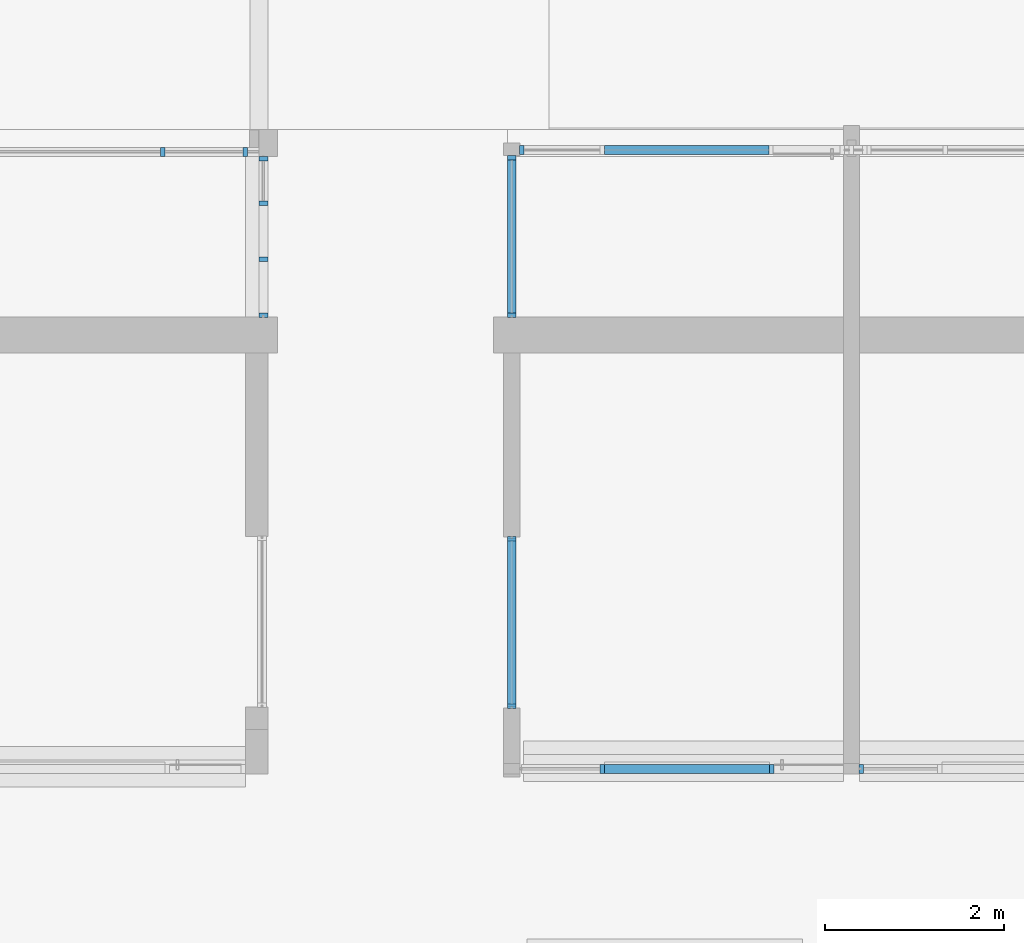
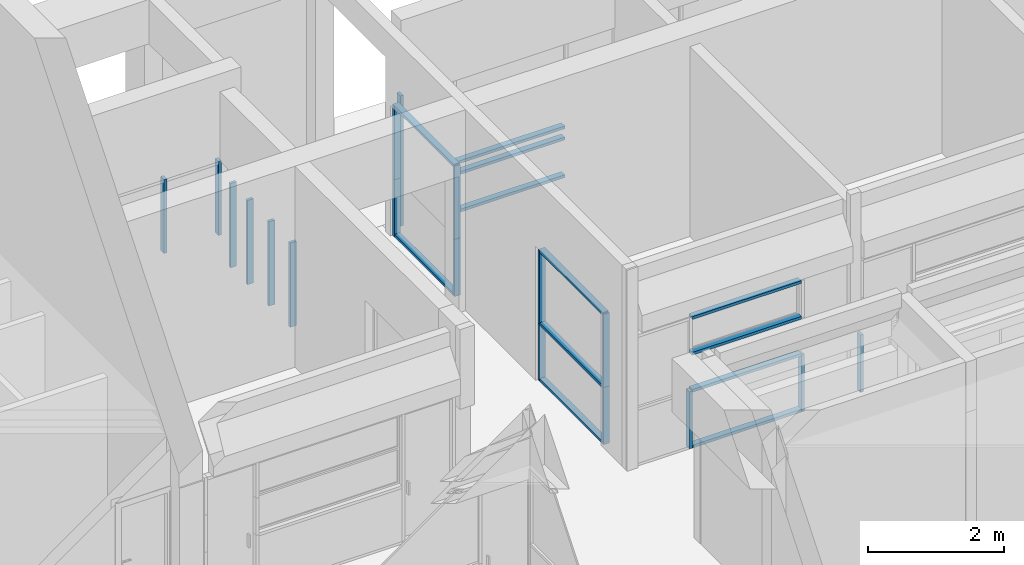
# One storey, part 5 of 117: 30 members, 7 elements without a shape of their own.
"""IFC4 building model written with IfcOpenShell, lengths in metres."""

from ifc_helpers import new_model, entity, si_unit, converted_unit, derived_unit, direction, frame, origin, place, context, subcontext, project, spatial, indexed_curve, outline, extrude, source, transform, mapped, material, type_object, type_shapes, element, aggregate, save


model = new_model("IFC4")

# Units and contexts
model_context = context("Model", 3, precision=1e-05, world=origin(), true_north=direction((6.123031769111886e-17, 1.0)))
body_context = subcontext(model_context, "Body", "Model", "MODEL_VIEW")
ifc_project = project(units=[si_unit("LENGTHUNIT", "METRE"), si_unit("AREAUNIT", "SQUARE_METRE"), si_unit("VOLUMEUNIT", "CUBIC_METRE"), converted_unit("PLANEANGLEUNIT", "DEGREE", entity("IfcRatioMeasure", 0.017453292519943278), si_unit("PLANEANGLEUNIT", "RADIAN"), dimensions=[0, 0, 0, 0, 0, 0, 0]), si_unit("MASSUNIT", "GRAM", prefix="KILO"), derived_unit("MASSDENSITYUNIT", [(si_unit("MASSUNIT", "GRAM", prefix="KILO"), 1), (si_unit("LENGTHUNIT", "METRE"), -3)]), derived_unit("MOMENTOFINERTIAUNIT", [(si_unit("LENGTHUNIT", "METRE"), 4)]), si_unit("TIMEUNIT", "SECOND"), si_unit("FREQUENCYUNIT", "HERTZ"), si_unit("THERMODYNAMICTEMPERATUREUNIT", "DEGREE_CELSIUS"), derived_unit("THERMALTRANSMITTANCEUNIT", [(si_unit("MASSUNIT", "GRAM", prefix="KILO"), 1), (si_unit("THERMODYNAMICTEMPERATUREUNIT", "KELVIN"), -1), (si_unit("TIMEUNIT", "SECOND"), -3)]), derived_unit("VOLUMETRICFLOWRATEUNIT", [(si_unit("LENGTHUNIT", "METRE"), 3), (si_unit("TIMEUNIT", "SECOND"), -1)]), derived_unit("MASSFLOWRATEUNIT", [(si_unit("MASSUNIT", "GRAM", prefix="KILO"), 1), (si_unit("TIMEUNIT", "SECOND"), -1)]), derived_unit("ROTATIONALFREQUENCYUNIT", [(si_unit("TIMEUNIT", "SECOND"), -1)]), si_unit("ELECTRICCURRENTUNIT", "AMPERE"), si_unit("ELECTRICVOLTAGEUNIT", "VOLT"), si_unit("POWERUNIT", "WATT"), si_unit("FORCEUNIT", "NEWTON", prefix="KILO"), si_unit("ILLUMINANCEUNIT", "LUX"), si_unit("LUMINOUSFLUXUNIT", "LUMEN"), si_unit("LUMINOUSINTENSITYUNIT", "CANDELA"), derived_unit("USERDEFINED", [(si_unit("MASSUNIT", "GRAM", prefix="KILO"), -1), (si_unit("LENGTHUNIT", "METRE"), -2), (si_unit("TIMEUNIT", "SECOND"), 3), (si_unit("LUMINOUSFLUXUNIT", "LUMEN"), 1)]), derived_unit("SOUNDPOWERUNIT", [(si_unit("MASSUNIT", "GRAM", prefix="KILO"), 1), (si_unit("LENGTHUNIT", "METRE"), 2), (si_unit("TIMEUNIT", "SECOND"), -3)]), derived_unit("SOUNDPRESSUREUNIT", [(si_unit("MASSUNIT", "GRAM", prefix="KILO"), 1), (si_unit("LENGTHUNIT", "METRE"), -1), (si_unit("TIMEUNIT", "SECOND"), -2)]), derived_unit("LINEARVELOCITYUNIT", [(si_unit("LENGTHUNIT", "METRE"), 1), (si_unit("TIMEUNIT", "SECOND"), -1)]), si_unit("PRESSUREUNIT", "PASCAL"), derived_unit("USERDEFINED", [(si_unit("LENGTHUNIT", "METRE"), -2), (si_unit("MASSUNIT", "GRAM", prefix="KILO"), 1), (si_unit("TIMEUNIT", "SECOND"), -2)]), derived_unit("LINEARFORCEUNIT", [(si_unit("MASSUNIT", "GRAM", prefix="KILO"), 1), (si_unit("LENGTHUNIT", "METRE"), 1), (si_unit("TIMEUNIT", "SECOND"), -2), (si_unit("LENGTHUNIT", "METRE"), -1)]), derived_unit("PLANARFORCEUNIT", [(si_unit("MASSUNIT", "GRAM", prefix="KILO"), 1), (si_unit("LENGTHUNIT", "METRE"), 1), (si_unit("TIMEUNIT", "SECOND"), -2), (si_unit("LENGTHUNIT", "METRE"), -2)])], contexts=[model_context])

# Site, building, storey
site_placement = place(None, origin())
site = spatial("IfcSite", under=ifc_project, at=site_placement, Name="Superficie", CompositionType="ELEMENT")
building_placement = place(site_placement, origin())
building = spatial("IfcBuilding", under=site, at=building_placement, CompositionType="ELEMENT")
storey_placement = place(building_placement, origin())
storey = spatial("IfcBuildingStorey", under=building, at=storey_placement, Name="Nivel 0", CompositionType="ELEMENT", Elevation=0.0)

# Curtain wall, members
curtain_wall_type = type_object("IfcCurtainWallType", Name="Muro cortina:Muro cortina - simple", PredefinedType="NOTDEFINED")
curtain_wall_1_placement = place(storey_placement, origin())
curtain_wall_1 = element("IfcCurtainWall", 1, at=curtain_wall_1_placement, inside=storey, type_object=curtain_wall_type, Name="Muro cortina:Muro cortina - simple", ObjectType="Muro cortina:Muro cortina - simple", PredefinedType="NOTDEFINED")
ifc_material = material(Name="<Unnamed>")
member_type_1 = type_object("IfcMemberType", Name="Montante rectangular:Montante rectangular - 5 x 10 cm", PredefinedType="MULLION", material=ifc_material)
shared_shape_1 = source(origin(), body_context, "Body", "SweptSolid", [
    extrude(outline(indexed_curve([(-0.05, -0.025), (0.05, -0.025), (0.05, 0.025), (-0.05, 0.025), (-0.05, -0.025)], self_intersect=False)), frame((0.0, 0.0, -1.0250000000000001), z_axis=(0.0, 0.0, 1.0), x_axis=(0.0, -1.0, 0.0)), (0.0, 0.0, 1.0), 1.0250000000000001),
])
type_shapes(member_type_1, [shared_shape_1])
member_1_placement = place(curtain_wall_1_placement, frame((-14.403200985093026, 5.715829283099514, -0.005000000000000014), z_axis=(0.0, 0.0, -1.0), x_axis=(1.0, 0.0, 0.0)))
member_1 = element("IfcMember", 2, at=member_1_placement, type_object=member_type_1, material=ifc_material, Name="Montante rectangular:Montante rectangular - 5 x 10 cm", ObjectType="Montante rectangular:Montante rectangular - 5 x 10 cm", PredefinedType="MULLION", context=body_context, shape_type="MappedRepresentation", body=[
    mapped(shared_shape_1, transform((0.0, 0.0, 0.0), scale=1.0)),
])
member_2_placement = place(curtain_wall_1_placement, frame((-12.50320098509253, 5.7158292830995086, -0.005000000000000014), z_axis=(0.0, 0.0, -1.0), x_axis=(1.0, 0.0, 0.0)))
member_2 = element("IfcMember", 3, at=member_2_placement, type_object=member_type_1, material=ifc_material, Name="Montante rectangular:Montante rectangular - 5 x 10 cm", ObjectType="Montante rectangular:Montante rectangular - 5 x 10 cm", PredefinedType="MULLION", context=body_context, shape_type="MappedRepresentation", body=[
    mapped(shared_shape_1, transform((0.0, 0.0, 0.0), scale=1.0)),
])

curtain_wall_2_placement = place(storey_placement, origin())
curtain_wall_2 = element("IfcCurtainWall", 4, at=curtain_wall_2_placement, inside=storey, type_object=curtain_wall_type, Name="Muro cortina:Muro cortina - simple", ObjectType="Muro cortina:Muro cortina - simple", PredefinedType="NOTDEFINED")
member_3_placement = place(curtain_wall_2_placement, frame((-15.41320098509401, 6.415829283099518, -0.004999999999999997), z_axis=(0.0, 0.0, -1.0), x_axis=(0.0, -1.0, 0.0)))
member_3 = element("IfcMember", 5, at=member_3_placement, type_object=member_type_1, material=ifc_material, Name="Montante rectangular:Montante rectangular - 5 x 10 cm", ObjectType="Montante rectangular:Montante rectangular - 5 x 10 cm", PredefinedType="MULLION", context=body_context, shape_type="MappedRepresentation", body=[
    mapped(shared_shape_1, transform((0.0, 0.0, 0.0), scale=1.0)),
])
member_4_placement = place(curtain_wall_2_placement, frame((-15.413200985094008, 8.293063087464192, -0.004999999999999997), z_axis=(0.0, 0.0, -1.0), x_axis=(0.0, -1.0, 0.0)))
member_4 = element("IfcMember", 6, at=member_4_placement, type_object=member_type_1, material=ifc_material, Name="Montante rectangular:Montante rectangular - 5 x 10 cm", ObjectType="Montante rectangular:Montante rectangular - 5 x 10 cm", PredefinedType="MULLION", context=body_context, shape_type="MappedRepresentation", body=[
    mapped(shared_shape_1, transform((0.0, 0.0, 0.0), scale=1.0)),
])

# Curtain wall, member
curtain_wall_3_placement = place(storey_placement, origin())
curtain_wall_3 = element("IfcCurtainWall", 7, at=curtain_wall_3_placement, inside=storey, type_object=curtain_wall_type, Name="Muro cortina:Muro cortina - simple", ObjectType="Muro cortina:Muro cortina - simple", PredefinedType="NOTDEFINED")
member_5_placement = place(curtain_wall_3_placement, frame((-11.503200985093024, 5.715829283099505, -0.005000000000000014), z_axis=(0.0, 0.0, -1.0), x_axis=(1.0, 0.0, 0.0)))
member_5 = element("IfcMember", 8, at=member_5_placement, type_object=member_type_1, material=ifc_material, Name="Montante rectangular:Montante rectangular - 5 x 10 cm", ObjectType="Montante rectangular:Montante rectangular - 5 x 10 cm", PredefinedType="MULLION", context=body_context, shape_type="MappedRepresentation", body=[
    mapped(shared_shape_1, transform((0.0, 0.0, 0.0), scale=1.0)),
])
aggregate(curtain_wall_3, [member_5])

# Member
member_type_2 = type_object("IfcMemberType", Name="Montante rectangular:Montante rectangular - 5 x 10 cm", PredefinedType="MULLION", material=ifc_material)
shared_shape_2 = source(origin(), body_context, "Body", "SweptSolid", [
    extrude(outline(indexed_curve([(-0.05, -0.025), (0.05, -0.025), (0.05, 0.025), (-0.05, 0.025), (-0.05, -0.025)], self_intersect=False)), frame((0.0, 0.0, -1.3099999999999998), z_axis=(0.0, 0.0, 1.0), x_axis=(0.0, -1.0, 0.0)), (0.0, 0.0, 1.0), 1.3099999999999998),
])
type_shapes(member_type_2, [shared_shape_2])
member_6_placement = place(curtain_wall_2_placement, frame((-15.41320098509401, 6.415829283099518, 1.0200000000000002), z_axis=(0.0, 0.0, -1.0), x_axis=(0.0, -1.0, 0.0)))
member_6 = element("IfcMember", 9, at=member_6_placement, type_object=member_type_2, material=ifc_material, Name="Montante rectangular:Montante rectangular - 5 x 10 cm", ObjectType="Montante rectangular:Montante rectangular - 5 x 10 cm", PredefinedType="MULLION", context=body_context, shape_type="MappedRepresentation", body=[
    mapped(shared_shape_2, transform((0.0, 0.0, 0.0), scale=1.0)),
])

member_7_placement = place(curtain_wall_2_placement, frame((-15.413200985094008, 8.293063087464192, 1.0200000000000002), z_axis=(0.0, 0.0, -1.0), x_axis=(0.0, -1.0, 0.0)))
member_7 = element("IfcMember", 10, at=member_7_placement, type_object=member_type_2, material=ifc_material, Name="Montante rectangular:Montante rectangular - 5 x 10 cm", ObjectType="Montante rectangular:Montante rectangular - 5 x 10 cm", PredefinedType="MULLION", context=body_context, shape_type="MappedRepresentation", body=[
    mapped(shared_shape_2, transform((0.0, 0.0, 0.0), scale=1.0)),
])

member_type_3 = type_object("IfcMemberType", Name="Montante rectangular:Montante rectangular - 5 x 10 cm", PredefinedType="MULLION", material=ifc_material)
shared_shape_3 = source(origin(), body_context, "Body", "SweptSolid", [
    extrude(outline(indexed_curve([(-0.05, -0.025), (0.05, -0.025), (0.05, 0.025), (-0.05, 0.025), (-0.05, -0.025)], self_intersect=False)), frame((0.0, 0.0, -1.850000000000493), z_axis=(0.0, 0.0, 1.0), x_axis=(0.0, -1.0, 0.0)), (0.0, 0.0, 1.0), 1.850000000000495),
])
type_shapes(member_type_3, [shared_shape_3])
member_8_placement = place(curtain_wall_1_placement, frame((-12.52820098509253, 5.7158292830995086, 0.019999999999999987), z_axis=(1.0, 0.0, 0.0), x_axis=(0.0, 0.0, 1.0)))
member_8 = element("IfcMember", 11, at=member_8_placement, type_object=member_type_3, material=ifc_material, Name="Montante rectangular:Montante rectangular - 5 x 10 cm", ObjectType="Montante rectangular:Montante rectangular - 5 x 10 cm", PredefinedType="MULLION", context=body_context, shape_type="MappedRepresentation", body=[
    mapped(shared_shape_3, transform((0.0, 0.0, 0.0), scale=1.0)),
])

member_9_placement = place(curtain_wall_1_placement, frame((-12.52820098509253, 5.7158292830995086, 1.0200000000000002), z_axis=(1.0, 0.0, 0.0), x_axis=(0.0, 0.0, 1.0)))
member_9 = element("IfcMember", 12, at=member_9_placement, type_object=member_type_3, material=ifc_material, Name="Montante rectangular:Montante rectangular - 5 x 10 cm", ObjectType="Montante rectangular:Montante rectangular - 5 x 10 cm", PredefinedType="MULLION", context=body_context, shape_type="MappedRepresentation", body=[
    mapped(shared_shape_3, transform((0.0, 0.0, 0.0), scale=1.0)),
])

member_10_placement = place(curtain_wall_1_placement, frame((-12.52820098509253, 5.7158292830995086, 1.685), z_axis=(1.0, 0.0, 0.0), x_axis=(0.0, 0.0, 1.0)))
member_10 = element("IfcMember", 13, at=member_10_placement, type_object=member_type_3, material=ifc_material, Name="Montante rectangular:Montante rectangular - 5 x 10 cm", ObjectType="Montante rectangular:Montante rectangular - 5 x 10 cm", PredefinedType="MULLION", context=body_context, shape_type="MappedRepresentation", body=[
    mapped(shared_shape_3, transform((0.0, 0.0, 0.0), scale=1.0)),
])

member_type_4 = type_object("IfcMemberType", Name="Montante rectangular:Montante rectangular - 5 x 10 cm", PredefinedType="MULLION", material=ifc_material)
shared_shape_4 = source(origin(), body_context, "Body", "SweptSolid", [
    extrude(outline(indexed_curve([(-0.05, -0.025), (0.05, -0.025), (0.05, 0.025), (-0.05, 0.025), (-0.05, -0.025)], self_intersect=False)), frame((-0.025, 0.0, -1.850000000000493), z_axis=(0.0, 0.0, 1.0), x_axis=(0.0, -1.0, 0.0)), (0.0, 0.0, 1.0), 1.850000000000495),
])
type_shapes(member_type_4, [shared_shape_4])
member_11_placement = place(curtain_wall_1_placement, frame((-12.52820098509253, 5.7158292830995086, 2.35), z_axis=(1.0, 0.0, 0.0), x_axis=(0.0, 0.0, 1.0)))
member_11 = element("IfcMember", 14, at=member_11_placement, type_object=member_type_4, material=ifc_material, Name="Montante rectangular:Montante rectangular - 5 x 10 cm", ObjectType="Montante rectangular:Montante rectangular - 5 x 10 cm", PredefinedType="MULLION", context=body_context, shape_type="MappedRepresentation", body=[
    mapped(shared_shape_4, transform((0.0, 0.0, 0.0), scale=1.0)),
])

aggregate(curtain_wall_1, [member_8, member_11, member_1, member_9, member_10, member_2])

member_type_5 = type_object("IfcMemberType", Name="Montante rectangular:Montante rectangular - 5 x 10 cm", PredefinedType="MULLION", material=ifc_material)
shared_shape_5 = source(origin(), body_context, "Body", "SweptSolid", [
    extrude(outline(indexed_curve([(-0.05, -0.025), (0.05, -0.025), (0.05, 0.025), (-0.05, 0.025), (-0.05, -0.025)], self_intersect=False)), frame((-0.025, 0.0, -1.877233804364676), z_axis=(0.0, 0.0, 1.0), x_axis=(0.0, -1.0, 0.0)), (0.0, 0.0, 1.0), 1.8772338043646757),
])
type_shapes(member_type_5, [shared_shape_5])
member_12_placement = place(curtain_wall_2_placement, frame((-15.41320098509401, 6.415829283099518, 2.3499999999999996), z_axis=(0.0, -1.0, 0.0), x_axis=(0.0, 0.0, 1.0)))
member_12 = element("IfcMember", 15, at=member_12_placement, type_object=member_type_5, material=ifc_material, Name="Montante rectangular:Montante rectangular - 5 x 10 cm", ObjectType="Montante rectangular:Montante rectangular - 5 x 10 cm", PredefinedType="MULLION", context=body_context, shape_type="MappedRepresentation", body=[
    mapped(shared_shape_5, transform((0.0, 0.0, 0.0), scale=1.0)),
])

member_type_6 = type_object("IfcMemberType", Name="Montante rectangular:Montante rectangular - 5 x 10 cm", PredefinedType="MULLION", material=ifc_material)
shared_shape_6 = source(origin(), body_context, "Body", "SweptSolid", [
    extrude(outline(indexed_curve([(-0.05, -0.025), (0.05, -0.025), (0.05, 0.025), (-0.05, 0.025), (-0.05, -0.025)], self_intersect=False)), frame((0.0, 0.0, -1.827233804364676), z_axis=(0.0, 0.0, 1.0), x_axis=(0.0, -1.0, 0.0)), (0.0, 0.0, 1.0), 1.8272338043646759),
])
type_shapes(member_type_6, [shared_shape_6])
member_13_placement = place(curtain_wall_2_placement, frame((-15.41320098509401, 6.440829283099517, 0.020000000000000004), z_axis=(0.0, -1.0, 0.0), x_axis=(0.0, 0.0, 1.0)))
member_13 = element("IfcMember", 16, at=member_13_placement, type_object=member_type_6, material=ifc_material, Name="Montante rectangular:Montante rectangular - 5 x 10 cm", ObjectType="Montante rectangular:Montante rectangular - 5 x 10 cm", PredefinedType="MULLION", context=body_context, shape_type="MappedRepresentation", body=[
    mapped(shared_shape_6, transform((0.0, 0.0, 0.0), scale=1.0)),
])

member_14_placement = place(curtain_wall_2_placement, frame((-15.41320098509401, 6.440829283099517, 1.0200000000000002), z_axis=(0.0, -1.0, 0.0), x_axis=(0.0, 0.0, 1.0)))
member_14 = element("IfcMember", 17, at=member_14_placement, type_object=member_type_6, material=ifc_material, Name="Montante rectangular:Montante rectangular - 5 x 10 cm", ObjectType="Montante rectangular:Montante rectangular - 5 x 10 cm", PredefinedType="MULLION", context=body_context, shape_type="MappedRepresentation", body=[
    mapped(shared_shape_6, transform((0.0, 0.0, 0.0), scale=1.0)),
])

aggregate(curtain_wall_2, [member_12, member_3, member_13, member_4, member_6, member_7, member_14])

# Curtain wall, members
curtain_wall_4_placement = place(storey_placement, origin())
curtain_wall_4 = element("IfcCurtainWall", 18, at=curtain_wall_4_placement, inside=storey, type_object=curtain_wall_type, Name="Muro cortina:Muro cortina - simple", ObjectType="Muro cortina:Muro cortina - simple", PredefinedType="NOTDEFINED")
member_type_7 = type_object("IfcMemberType", Name="Montante rectangular:Montante rectangular - 5 x 10 cm", PredefinedType="MULLION", material=ifc_material)
shared_shape_7 = source(origin(), body_context, "Body", "SweptSolid", [
    extrude(outline(indexed_curve([(-0.05, -0.025), (0.05, -0.025), (0.05, 0.025), (-0.05, 0.025), (-0.05, -0.025)], self_intersect=False)), frame((0.0, 0.0, -1.0250000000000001), z_axis=(0.0, 0.0, 1.0), x_axis=(0.0, -1.0, 0.0)), (0.0, 0.0, 1.0), 1.0250000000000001),
])
type_shapes(member_type_7, [shared_shape_7])
member_15_placement = place(curtain_wall_4_placement, frame((-15.413200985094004, 10.790829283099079, -0.004999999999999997), z_axis=(0.0, 0.0, -1.0), x_axis=(0.0, -1.0, 0.0)))
member_15 = element("IfcMember", 19, at=member_15_placement, type_object=member_type_7, material=ifc_material, Name="Montante rectangular:Montante rectangular - 5 x 10 cm", ObjectType="Montante rectangular:Montante rectangular - 5 x 10 cm", PredefinedType="MULLION", context=body_context, shape_type="MappedRepresentation", body=[
    mapped(shared_shape_7, transform((0.0, 0.0, 0.0), scale=1.0)),
])
member_type_8 = type_object("IfcMemberType", Name="Montante rectangular:Montante rectangular - 5 x 10 cm", PredefinedType="MULLION", material=ifc_material)
shared_shape_8 = source(origin(), body_context, "Body", "SweptSolid", [
    extrude(outline(indexed_curve([(-0.05, -0.025), (0.05, -0.025), (0.05, 0.025), (-0.05, 0.025), (-0.05, -0.025)], self_intersect=False)), frame((-0.025, 0.0, -1.0250000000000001), z_axis=(0.0, 0.0, 1.0), x_axis=(0.0, -1.0, 0.0)), (0.0, 0.0, 1.0), 1.0250000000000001),
])
type_shapes(member_type_8, [shared_shape_8])
member_16_placement = place(curtain_wall_4_placement, frame((-15.413200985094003, 12.578448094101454, 1.0200000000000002), z_axis=(0.0, 0.0, 1.0), x_axis=(0.0, 1.0, 0.0)))
member_16 = element("IfcMember", 20, at=member_16_placement, type_object=member_type_8, material=ifc_material, Name="Montante rectangular:Montante rectangular - 5 x 10 cm", ObjectType="Montante rectangular:Montante rectangular - 5 x 10 cm", PredefinedType="MULLION", context=body_context, shape_type="MappedRepresentation", body=[
    mapped(shared_shape_8, transform((0.0, 0.0, 0.0), scale=1.0)),
])
member_type_9 = type_object("IfcMemberType", Name="Montante rectangular:Montante rectangular - 5 x 10 cm", PredefinedType="MULLION", material=ifc_material)
shared_shape_9 = source(origin(), body_context, "Body", "SweptSolid", [
    extrude(outline(indexed_curve([(-0.05, -0.025), (0.05, -0.025), (0.05, 0.025), (-0.05, 0.025), (-0.05, -0.025)], self_intersect=False)), frame((0.0, 0.0, -1.3099999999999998), z_axis=(0.0, 0.0, 1.0), x_axis=(0.0, -1.0, 0.0)), (0.0, 0.0, 1.0), 1.3099999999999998),
])
type_shapes(member_type_9, [shared_shape_9])
member_17_placement = place(curtain_wall_4_placement, frame((-15.413200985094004, 10.790829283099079, 1.0200000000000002), z_axis=(0.0, 0.0, -1.0), x_axis=(0.0, -1.0, 0.0)))
member_17 = element("IfcMember", 21, at=member_17_placement, type_object=member_type_9, material=ifc_material, Name="Montante rectangular:Montante rectangular - 5 x 10 cm", ObjectType="Montante rectangular:Montante rectangular - 5 x 10 cm", PredefinedType="MULLION", context=body_context, shape_type="MappedRepresentation", body=[
    mapped(shared_shape_9, transform((0.0, 0.0, 0.0), scale=1.0)),
])

curtain_wall_5_placement = place(storey_placement, origin())
curtain_wall_5 = element("IfcCurtainWall", 22, at=curtain_wall_5_placement, inside=storey, type_object=curtain_wall_type, Name="Muro cortina:Muro cortina - simple", ObjectType="Muro cortina:Muro cortina - simple", PredefinedType="NOTDEFINED")
member_type_10 = type_object("IfcMemberType", Name="Montante rectangular:Montante rectangular - 5 x 10 cm", PredefinedType="MULLION", material=ifc_material)
shared_shape_10 = source(origin(), body_context, "Body", "SweptSolid", [
    extrude(outline(indexed_curve([(-0.05, -0.025), (0.05, -0.025), (0.05, 0.025), (-0.05, 0.025), (-0.05, -0.025)], self_intersect=False)), frame((0.0, 0.0, -1.5099999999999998), z_axis=(0.0, 0.0, 1.0), x_axis=(0.0, -1.0, 0.0)), (0.0, 0.0, 1.0), 1.5099999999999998),
])
type_shapes(member_type_10, [shared_shape_10])
member_18_placement = place(curtain_wall_5_placement, frame((-18.193200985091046, 10.790829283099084, 0.4200000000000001), z_axis=(0.0, 0.0, -1.0), x_axis=(0.0, 1.0, 0.0)))
member_18 = element("IfcMember", 23, at=member_18_placement, type_object=member_type_10, material=ifc_material, Name="Montante rectangular:Montante rectangular - 5 x 10 cm", ObjectType="Montante rectangular:Montante rectangular - 5 x 10 cm", PredefinedType="MULLION", context=body_context, shape_type="MappedRepresentation", body=[
    mapped(shared_shape_10, transform((0.0, 0.0, 0.0), scale=1.0)),
])
member_type_11 = type_object("IfcMemberType", Name="Montante rectangular:Montante rectangular - 5 x 10 cm", PredefinedType="MULLION", material=ifc_material)
shared_shape_11 = source(origin(), body_context, "Body", "SweptSolid", [
    extrude(outline(indexed_curve([(-0.05, -0.025), (0.05, -0.025), (0.05, 0.025), (-0.05, 0.025), (-0.05, -0.025)], self_intersect=False)), frame((-0.025, 0.0, -1.5099999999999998), z_axis=(0.0, 0.0, 1.0), x_axis=(0.0, -1.0, 0.0)), (0.0, 0.0, 1.0), 1.5099999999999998),
])
type_shapes(member_type_11, [shared_shape_11])
member_19_placement = place(curtain_wall_5_placement, frame((-18.193200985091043, 12.570829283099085, 0.4200000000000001), z_axis=(0.0, 0.0, -1.0), x_axis=(0.0, 1.0, 0.0)))
member_19 = element("IfcMember", 24, at=member_19_placement, type_object=member_type_11, material=ifc_material, Name="Montante rectangular:Montante rectangular - 5 x 10 cm", ObjectType="Montante rectangular:Montante rectangular - 5 x 10 cm", PredefinedType="MULLION", context=body_context, shape_type="MappedRepresentation", body=[
    mapped(shared_shape_11, transform((0.0, 0.0, 0.0), scale=1.0)),
])
member_type_12 = type_object("IfcMemberType", Name="Montante rectangular:Montante rectangular - 5 x 10 cm", PredefinedType="MULLION", material=ifc_material)
shared_shape_12 = source(origin(), body_context, "Body", "SweptSolid", [
    extrude(outline(indexed_curve([(-0.05, -0.025), (0.05, -0.025), (0.05, 0.025), (-0.05, 0.025), (-0.05, -0.025)], self_intersect=False)), frame((0.0, 0.0, -1.5099999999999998), z_axis=(0.0, 0.0, 1.0), x_axis=(0.0, -1.0, 0.0)), (0.0, 0.0, 1.0), 1.5099999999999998),
])
type_shapes(member_type_12, [shared_shape_12])
member_20_placement = place(curtain_wall_5_placement, frame((-18.193200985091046, 11.419039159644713, 0.4200000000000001), z_axis=(0.0, 0.0, -1.0), x_axis=(0.0, 1.0, 0.0)))
member_20 = element("IfcMember", 25, at=member_20_placement, type_object=member_type_12, material=ifc_material, Name="Montante rectangular:Montante rectangular - 5 x 10 cm", ObjectType="Montante rectangular:Montante rectangular - 5 x 10 cm", PredefinedType="MULLION", context=body_context, shape_type="MappedRepresentation", body=[
    mapped(shared_shape_12, transform((0.0, 0.0, 0.0), scale=1.0)),
])
member_21_placement = place(curtain_wall_5_placement, frame((-18.193200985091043, 12.047249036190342, 0.4200000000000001), z_axis=(0.0, 0.0, -1.0), x_axis=(0.0, 1.0, 0.0)))
member_21 = element("IfcMember", 26, at=member_21_placement, type_object=member_type_12, material=ifc_material, Name="Montante rectangular:Montante rectangular - 5 x 10 cm", ObjectType="Montante rectangular:Montante rectangular - 5 x 10 cm", PredefinedType="MULLION", context=body_context, shape_type="MappedRepresentation", body=[
    mapped(shared_shape_12, transform((0.0, 0.0, 0.0), scale=1.0)),
])
aggregate(curtain_wall_5, [member_18, member_19, member_20, member_21])

# Member
member_type_13 = type_object("IfcMemberType", Name="Montante rectangular:Montante rectangular - 5 x 10 cm", PredefinedType="MULLION", material=ifc_material)
shared_shape_13 = source(origin(), body_context, "Body", "SweptSolid", [
    extrude(outline(indexed_curve([(-0.05, -0.025), (0.05, -0.025), (0.05, 0.025), (-0.05, 0.025), (-0.05, -0.025)], self_intersect=False)), frame((-0.025, 0.0, -1.7876188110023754), z_axis=(0.0, 0.0, 1.0), x_axis=(0.0, -1.0, 0.0)), (0.0, 0.0, 1.0), 1.7876188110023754),
])
type_shapes(member_type_13, [shared_shape_13])
member_22_placement = place(curtain_wall_4_placement, frame((-15.413200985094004, 10.790829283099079, 2.35), z_axis=(0.0, -1.0, 0.0), x_axis=(0.0, 0.0, 1.0)))
member_22 = element("IfcMember", 27, at=member_22_placement, type_object=member_type_13, material=ifc_material, Name="Montante rectangular:Montante rectangular - 5 x 10 cm", ObjectType="Montante rectangular:Montante rectangular - 5 x 10 cm", PredefinedType="MULLION", context=body_context, shape_type="MappedRepresentation", body=[
    mapped(shared_shape_13, transform((0.0, 0.0, 0.0), scale=1.0)),
])

member_type_14 = type_object("IfcMemberType", Name="Montante rectangular:Montante rectangular - 5 x 10 cm", PredefinedType="MULLION", material=ifc_material)
shared_shape_14 = source(origin(), body_context, "Body", "SweptSolid", [
    extrude(outline(indexed_curve([(-0.05, -0.025), (0.05, -0.025), (0.05, 0.025), (-0.05, 0.025), (-0.05, -0.025)], self_intersect=False)), frame((-0.025, 0.0, -1.31), z_axis=(0.0, 0.0, 1.0), x_axis=(0.0, -1.0, 0.0)), (0.0, 0.0, 1.0), 1.31),
])
type_shapes(member_type_14, [shared_shape_14])
member_23_placement = place(curtain_wall_4_placement, frame((-15.413200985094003, 12.578448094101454, 2.33), z_axis=(0.0, 0.0, 1.0), x_axis=(0.0, 1.0, 0.0)))
member_23 = element("IfcMember", 28, at=member_23_placement, type_object=member_type_14, material=ifc_material, Name="Montante rectangular:Montante rectangular - 5 x 10 cm", ObjectType="Montante rectangular:Montante rectangular - 5 x 10 cm", PredefinedType="MULLION", context=body_context, shape_type="MappedRepresentation", body=[
    mapped(shared_shape_14, transform((0.0, 0.0, 0.0), scale=1.0)),
])

member_type_15 = type_object("IfcMemberType", Name="Montante rectangular:Montante rectangular - 5 x 10 cm", PredefinedType="MULLION", material=ifc_material)
shared_shape_15 = source(origin(), body_context, "Body", "SweptSolid", [
    extrude(outline(indexed_curve([(-0.05, -0.025), (0.05, -0.025), (0.05, 0.025), (-0.05, 0.025), (-0.05, -0.025)], self_intersect=False)), frame((0.0, 0.0, -1.712618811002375), z_axis=(0.0, 0.0, 1.0), x_axis=(0.0, -1.0, 0.0)), (0.0, 0.0, 1.0), 1.7126188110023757),
])
type_shapes(member_type_15, [shared_shape_15])
member_24_placement = place(curtain_wall_4_placement, frame((-15.413200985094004, 10.81582928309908, 0.020000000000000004), z_axis=(0.0, -1.0, 0.0), x_axis=(0.0, 0.0, 1.0)))
member_24 = element("IfcMember", 29, at=member_24_placement, type_object=member_type_15, material=ifc_material, Name="Montante rectangular:Montante rectangular - 5 x 10 cm", ObjectType="Montante rectangular:Montante rectangular - 5 x 10 cm", PredefinedType="MULLION", context=body_context, shape_type="MappedRepresentation", body=[
    mapped(shared_shape_15, transform((0.0, 0.0, 0.0), scale=1.0)),
])

aggregate(curtain_wall_4, [member_22, member_15, member_17, member_16, member_23, member_24])

# Curtain wall, members
curtain_wall_6_placement = place(storey_placement, origin())
curtain_wall_6 = element("IfcCurtainWall", 30, at=curtain_wall_6_placement, inside=storey, type_object=curtain_wall_type, Name="Muro cortina:Muro cortina - simple", ObjectType="Muro cortina:Muro cortina - simple", PredefinedType="NOTDEFINED")
member_type_16 = type_object("IfcMemberType", Name="Montante rectangular:Montante rectangular - 5 x 10 cm", PredefinedType="MULLION", material=ifc_material)
shared_shape_16 = source(origin(), body_context, "Body", "SweptSolid", [
    extrude(outline(indexed_curve([(-0.05, -0.025), (0.05, -0.025), (0.05, 0.025), (-0.05, 0.025), (-0.05, -0.025)], self_intersect=False)), frame((0.0, 0.0, -1.3250000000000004), z_axis=(0.0, 0.0, 1.0), x_axis=(0.0, -1.0, 0.0)), (0.0, 0.0, 1.0), 1.3250000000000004),
])
type_shapes(member_type_16, [shared_shape_16])
member_25_placement = place(curtain_wall_6_placement, frame((-19.318200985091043, 12.62082928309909, 1.0299999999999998), z_axis=(0.0, 0.0, -1.0), x_axis=(-1.0, 0.0, 0.0)))
member_25 = element("IfcMember", 31, at=member_25_placement, type_object=member_type_16, material=ifc_material, Name="Montante rectangular:Montante rectangular - 5 x 10 cm", ObjectType="Montante rectangular:Montante rectangular - 5 x 10 cm", PredefinedType="MULLION", context=body_context, shape_type="MappedRepresentation", body=[
    mapped(shared_shape_16, transform((0.0, 0.0, 0.0), scale=1.0)),
])
member_type_17 = type_object("IfcMemberType", Name="Montante rectangular:Montante rectangular - 5 x 10 cm", PredefinedType="MULLION", material=ifc_material)
shared_shape_17 = source(origin(), body_context, "Body", "SweptSolid", [
    extrude(outline(indexed_curve([(-0.05, -0.025), (0.05, -0.025), (0.05, 0.025), (-0.05, 0.025), (-0.05, -0.025)], self_intersect=False)), frame((0.0, 0.0, -1.3250000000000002), z_axis=(0.0, 0.0, 1.0), x_axis=(0.0, -1.0, 0.0)), (0.0, 0.0, 1.0), 1.3250000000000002),
])
type_shapes(member_type_17, [shared_shape_17])
member_26_placement = place(curtain_wall_6_placement, frame((-18.393200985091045, 12.620829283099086, 1.0299999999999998), z_axis=(0.0, 0.0, -1.0), x_axis=(-1.0, 0.0, 0.0)))
member_26 = element("IfcMember", 32, at=member_26_placement, type_object=member_type_17, material=ifc_material, Name="Montante rectangular:Montante rectangular - 5 x 10 cm", ObjectType="Montante rectangular:Montante rectangular - 5 x 10 cm", PredefinedType="MULLION", context=body_context, shape_type="MappedRepresentation", body=[
    mapped(shared_shape_17, transform((0.0, 0.0, 0.0), scale=1.0)),
])
aggregate(curtain_wall_6, [member_25, member_26])

curtain_wall_7_placement = place(storey_placement, origin())
curtain_wall_7 = element("IfcCurtainWall", 33, at=curtain_wall_7_placement, inside=storey, type_object=curtain_wall_type, Name="Muro cortina:Muro cortina - simple", ObjectType="Muro cortina:Muro cortina - simple", PredefinedType="NOTDEFINED")
member_type_18 = type_object("IfcMemberType", Name="Montante rectangular:Montante rectangular - 5 x 10 cm", PredefinedType="MULLION", material=ifc_material)
shared_shape_18 = source(origin(), body_context, "Body", "SweptSolid", [
    extrude(outline(indexed_curve([(-0.05, -0.025), (0.05, -0.025), (0.05, 0.025), (-0.05, 0.025), (-0.05, -0.025)], self_intersect=False)), frame((-0.025, 0.0, -1.8400000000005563), z_axis=(0.0, 0.0, 1.0), x_axis=(0.0, -1.0, 0.0)), (0.0, 0.0, 1.0), 1.8400000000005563),
])
type_shapes(member_type_18, [shared_shape_18])
member_27_placement = place(curtain_wall_7_placement, frame((-12.537388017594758, 12.640829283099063, 0.0), z_axis=(1.0, 0.0, 0.0), x_axis=(0.0, 0.0, -1.0)))
member_27 = element("IfcMember", 34, at=member_27_placement, type_object=member_type_18, material=ifc_material, Name="Montante rectangular:Montante rectangular - 5 x 10 cm", ObjectType="Montante rectangular:Montante rectangular - 5 x 10 cm", PredefinedType="MULLION", context=body_context, shape_type="MappedRepresentation", body=[
    mapped(shared_shape_18, transform((0.0, 0.0, 0.0), scale=1.0)),
])
member_type_19 = type_object("IfcMemberType", Name="Montante rectangular:Montante rectangular - 5 x 10 cm", PredefinedType="MULLION", material=ifc_material)
shared_shape_19 = source(origin(), body_context, "Body", "SweptSolid", [
    extrude(outline(indexed_curve([(-0.05, -0.025), (0.05, -0.025), (0.05, 0.025), (-0.05, 0.025), (-0.05, -0.025)], self_intersect=False)), frame((0.0, 0.0, -1.8400000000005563), z_axis=(0.0, 0.0, 1.0), x_axis=(0.0, -1.0, 0.0)), (0.0, 0.0, 1.0), 1.8400000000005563),
])
type_shapes(member_type_19, [shared_shape_19])
member_28_placement = place(curtain_wall_7_placement, frame((-14.377388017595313, 12.640829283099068, 0.8999999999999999), z_axis=(-1.0, 0.0, 0.0), x_axis=(0.0, 0.0, 1.0)))
member_28 = element("IfcMember", 35, at=member_28_placement, type_object=member_type_19, material=ifc_material, Name="Montante rectangular:Montante rectangular - 5 x 10 cm", ObjectType="Montante rectangular:Montante rectangular - 5 x 10 cm", PredefinedType="MULLION", context=body_context, shape_type="MappedRepresentation", body=[
    mapped(shared_shape_19, transform((0.0, 0.0, 0.0), scale=1.0)),
])
member_29_placement = place(curtain_wall_7_placement, frame((-14.377388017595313, 12.640829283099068, 0.7), z_axis=(-1.0, 0.0, 0.0), x_axis=(0.0, 0.0, 1.0)))
member_29 = element("IfcMember", 36, at=member_29_placement, type_object=member_type_19, material=ifc_material, Name="Montante rectangular:Montante rectangular - 5 x 10 cm", ObjectType="Montante rectangular:Montante rectangular - 5 x 10 cm", PredefinedType="MULLION", context=body_context, shape_type="MappedRepresentation", body=[
    mapped(shared_shape_19, transform((0.0, 0.0, 0.0), scale=1.0)),
])
member_type_20 = type_object("IfcMemberType", Name="Montante rectangular:Montante rectangular - 5 x 10 cm", PredefinedType="MULLION", material=ifc_material)
shared_shape_20 = source(origin(), body_context, "Body", "SweptSolid", [
    extrude(outline(indexed_curve([(-0.05, -0.025), (0.05, -0.025), (0.05, 0.025), (-0.05, 0.025), (-0.05, -0.025)], self_intersect=False)), frame((0.0, 0.0, -2.339026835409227), z_axis=(0.0, 0.0, 1.0), x_axis=(0.0, -1.0, 0.0)), (0.0, 0.0, 1.0), 2.339026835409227),
])
type_shapes(member_type_20, [shared_shape_20])
member_30_placement = place(curtain_wall_7_placement, frame((-15.302388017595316, 12.640829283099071, 0.10097316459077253), z_axis=(0.0, 0.0, -1.0), x_axis=(-1.0, 0.0, 0.0)))
member_30 = element("IfcMember", 37, at=member_30_placement, type_object=member_type_20, material=ifc_material, Name="Montante rectangular:Montante rectangular - 5 x 10 cm", ObjectType="Montante rectangular:Montante rectangular - 5 x 10 cm", PredefinedType="MULLION", context=body_context, shape_type="MappedRepresentation", body=[
    mapped(shared_shape_20, transform((0.0, 0.0, 0.0), scale=1.0)),
])
aggregate(curtain_wall_7, [member_27, member_28, member_29, member_30])

save(model, "model.ifc")
